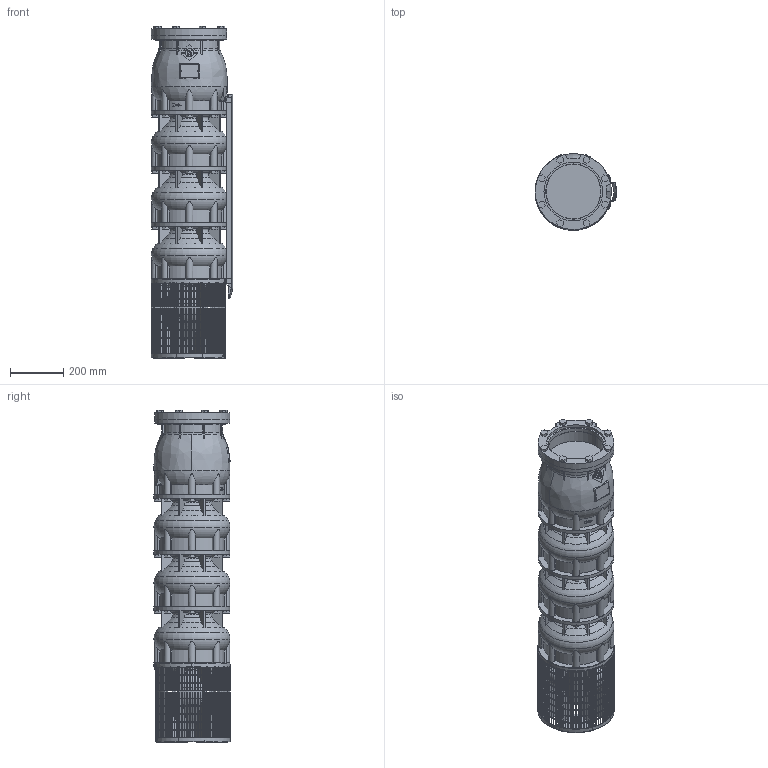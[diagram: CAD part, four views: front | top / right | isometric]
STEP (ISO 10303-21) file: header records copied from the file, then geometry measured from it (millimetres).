
FILE_DESCRIPTION(/* description */ ('-'),/* implementation_level */ '2;1');
FILE_NAME(/* name */ 'VSI344-3-1B_WF_M8-50_DLE',/* time_stamp */ '2026-01-21T10:56:49+01:00',/* author */ ('Simonelli M.'),/* organization */ ('Franklin Electric Srl'),/* preprocessor_version */ 'ST-DEVELOPER v18.102',/* originating_system */ 'Solid Edge',/* authorisation */ 'Unknown');
FILE_SCHEMA (('CONFIG_CONTROL_DESIGN','AUTOMOTIVE_DESIGN {1 0 10303 214 3 1 1}'));
Products named in the file (12): VSI344-3-1B_WF_M8-50_DLE; VSI344-454_testata; VSI344-454_supporto; VSI344-454_filtro_A; VSI344-454_filtro_B; VSI344-454_terminale_top_copricavo_basso; VSI344-454_terminale_bottom_copricavo_basso; LOW 334-3; VSI344_diffusore; M5X8_UNI7687; VSI184-254_giunto_10×8; VSI344-454_flangia_testata
Assembly tree (22 placements, depth 2):
  VSI344-3-1B_WF_M8-50_DLE
    VSI344-454_testata
    VSI344-454_supporto
    VSI344-454_filtro_A
    VSI344-454_filtro_B
    VSI344-454_terminale_top_copricavo_basso
    VSI344-454_terminale_bottom_copricavo_basso
    LOW 334-3
    VSI344_diffusore  x3
    M5X8_UNI7687  x10
    VSI184-254_giunto_10×8
    VSI344-454_flangia_testata
Bounding box: 306.94 x 286 x 1245 mm (x, y, z)
Volume: 48337585.7 mm3; surface area: 2777883.2 mm2
Topology: 87 solids, 87 shells, 4260 faces, 12006 edges, 7976 vertices
Faces by surface type: plane 3420, cylinder 512, torus 218, cone 85, bspline 15, sphere 10
Full cylindrical faces by diameter (mm): 5 x10, 16 x8, 35 x1, 65 x1, 69 x1, 150 x1, 207 x1, 220.5 x1, 285 x3
Entity records: 127592 total; most frequent: CARTESIAN_POINT 28630, ORIENTED_EDGE 20792, DIRECTION 19892, EDGE_CURVE 10396, VERTEX_POINT 6933, AXIS2_PLACEMENT_3D 6717, LINE 6458, VECTOR 6458
